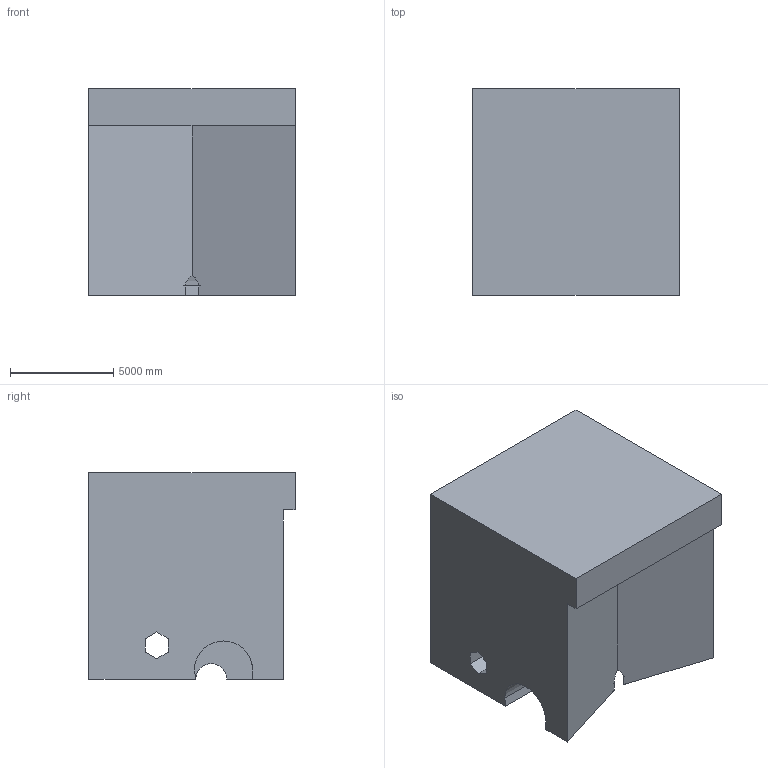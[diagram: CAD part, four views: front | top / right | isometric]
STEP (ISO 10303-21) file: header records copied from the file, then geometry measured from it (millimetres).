
FILE_DESCRIPTION (( 'STEP AP203' ), '1' );
FILE_NAME ('147.STEP', '2022-09-06T12:34:33', ( 'user' ), ( '' ), 'SwSTEP 2.0', 'SolidWorks 2021', '' );
FILE_SCHEMA (( 'CONFIG_CONTROL_DESIGN' ));
Length unit declared in the file: centimetre
Products named in the file (1): 147
Bounding box: 10000 x 10000 x 10000 mm (x, y, z)
Volume: 823620196953.2 mm3; surface area: 676484191.3 mm2
Topology: 1 solids, 1 shells, 27 faces, 71 edges, 47 vertices
Faces by surface type: plane 22, cylinder 5
Entity records: 908 total; most frequent: CARTESIAN_POINT 152, ORIENTED_EDGE 142, DIRECTION 135, EDGE_CURVE 71, VECTOR 59, LINE 59, VERTEX_POINT 47, AXIS2_PLACEMENT_3D 38
